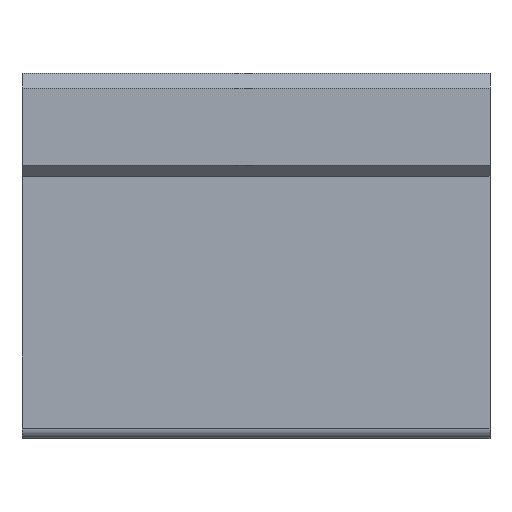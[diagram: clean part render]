
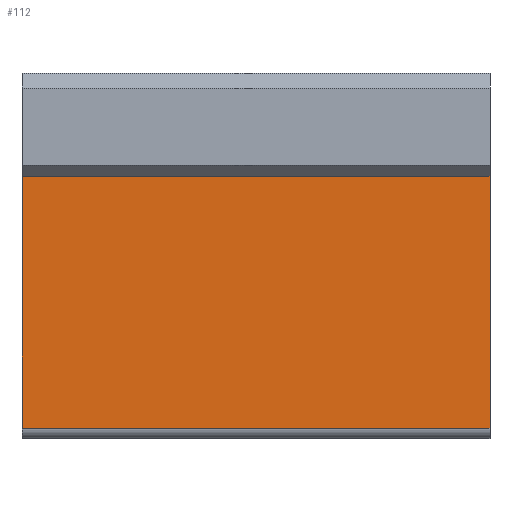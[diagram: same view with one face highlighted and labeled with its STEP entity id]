
A CAD part, front view. The second image highlights one B-rep face of the part: STEP entity #112.
In plain terms, the highlighted planar face has unit normal (0, -1, 0).
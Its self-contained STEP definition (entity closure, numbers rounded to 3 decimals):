
#112 = ADVANCED_FACE( '', ( #249 ), #250, .T. );
#249 = FACE_OUTER_BOUND( '', #402, .T. );
#250 = PLANE( '', #403 );
#402 = EDGE_LOOP( '', ( #647, #648, #649, #650 ) );
#403 = AXIS2_PLACEMENT_3D( '', #651, #652, #653 );
#647 = ORIENTED_EDGE( '', *, *, #850, .T. );
#648 = ORIENTED_EDGE( '', *, *, #878, .T. );
#649 = ORIENTED_EDGE( '', *, *, #904, .T. );
#650 = ORIENTED_EDGE( '', *, *, #905, .F. );
#651 = CARTESIAN_POINT( '', ( 0., -22.8, -16. ) );
#652 = DIRECTION( '', ( 0., -1., 0. ) );
#653 = DIRECTION( '', ( 1., 0., 0. ) );
#850 = EDGE_CURVE( '', #1010, #1008, #1011, .T. );
#878 = EDGE_CURVE( '', #1008, #1050, #1052, .T. );
#904 = EDGE_CURVE( '', #1050, #1087, #1088, .T. );
#905 = EDGE_CURVE( '', #1010, #1087, #1089, .T. );
#1008 = VERTEX_POINT( '', #1217 );
#1010 = VERTEX_POINT( '', #1219 );
#1011 = LINE( '', #1220, #1221 );
#1050 = VERTEX_POINT( '', #1277 );
#1052 = LINE( '', #1279, #1280 );
#1087 = VERTEX_POINT( '', #1324 );
#1088 = LINE( '', #1325, #1326 );
#1089 = LINE( '', #1327, #1328 );
#1217 = CARTESIAN_POINT( '', ( 0., -22.8, -14.9 ) );
#1219 = CARTESIAN_POINT( '', ( 0., -22.8, 12. ) );
#1220 = CARTESIAN_POINT( '', ( 0., -22.8, 12. ) );
#1221 = VECTOR( '', #1449, 1000. );
#1277 = CARTESIAN_POINT( '', ( 50., -22.8, -14.9 ) );
#1279 = CARTESIAN_POINT( '', ( 0., -22.8, -14.9 ) );
#1280 = VECTOR( '', #1476, 1000. );
#1324 = CARTESIAN_POINT( '', ( 50., -22.8, 12. ) );
#1325 = CARTESIAN_POINT( '', ( 50., -22.8, -16. ) );
#1326 = VECTOR( '', #1501, 1000. );
#1327 = CARTESIAN_POINT( '', ( 0., -22.8, 12. ) );
#1328 = VECTOR( '', #1502, 1000. );
#1449 = DIRECTION( '', ( 0., 0., -1. ) );
#1476 = DIRECTION( '', ( 1., 0., 0. ) );
#1501 = DIRECTION( '', ( 0., 0., 1. ) );
#1502 = DIRECTION( '', ( 1., 0., 0. ) );
